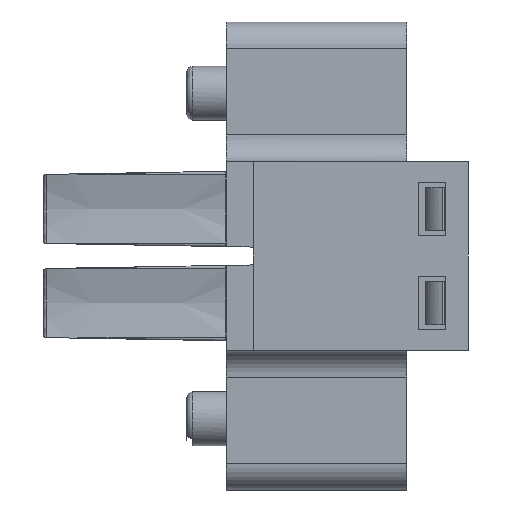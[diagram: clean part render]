
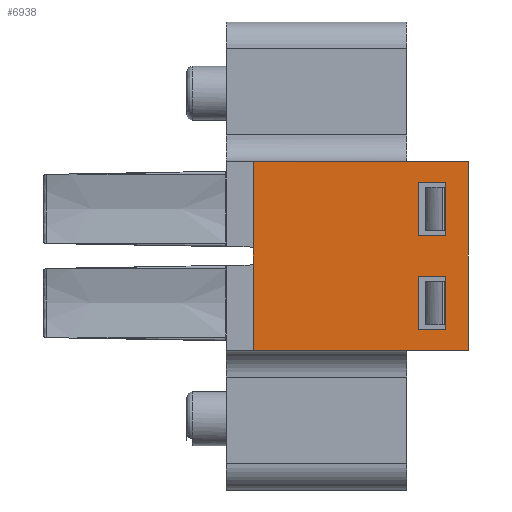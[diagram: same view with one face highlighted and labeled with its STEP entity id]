
A CAD part, left-side view. The second image highlights one B-rep face of the part: STEP entity #6938.
In plain terms, the highlighted planar face has unit normal (-1, 0, 0).
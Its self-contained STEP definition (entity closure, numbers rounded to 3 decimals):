
#6 = VERTEX_POINT ( 'NONE', #26817 ) ;
#208 = VERTEX_POINT ( 'NONE', #9997 ) ;
#300 = LINE ( 'NONE', #25983, #7680 ) ;
#777 = EDGE_CURVE ( 'NONE', #36788, #29405, #11352, .T. ) ;
#1021 = ORIENTED_EDGE ( 'NONE', *, *, #38121, .F. ) ;
#1745 = VECTOR ( 'NONE', #33619, 1000. ) ;
#2189 = VERTEX_POINT ( 'NONE', #21381 ) ;
#2351 = VECTOR ( 'NONE', #16948, 1000. ) ;
#2513 = EDGE_CURVE ( 'NONE', #6, #36788, #300, .T. ) ;
#2801 = ORIENTED_EDGE ( 'NONE', *, *, #777, .F. ) ;
#3315 = EDGE_CURVE ( 'NONE', #39332, #9974, #14833, .T. ) ;
#3419 = ORIENTED_EDGE ( 'NONE', *, *, #20596, .F. ) ;
#3481 = VERTEX_POINT ( 'NONE', #25089 ) ;
#4651 = ORIENTED_EDGE ( 'NONE', *, *, #21309, .F. ) ;
#5348 = VECTOR ( 'NONE', #34013, 1000. ) ;
#5572 = CARTESIAN_POINT ( 'NONE',  ( -22.387, -6.502, -7.844 ) ) ;
#5703 = ORIENTED_EDGE ( 'NONE', *, *, #2513, .F. ) ;
#5972 = DIRECTION ( 'NONE',  ( 1., 0., 0. ) ) ;
#6003 = VECTOR ( 'NONE', #14224, 1000. ) ;
#6313 = LINE ( 'NONE', #38914, #31614 ) ;
#6808 = FACE_BOUND ( 'NONE', #13587, .T. ) ;
#6938 = ADVANCED_FACE ( 'NONE', ( #34210, #18188, #6808 ), #13122, .F. ) ;
#7680 = VECTOR ( 'NONE', #25700, 1000. ) ;
#8277 = CARTESIAN_POINT ( 'NONE',  ( -22.387, 0.648, 1.906 ) ) ;
#8546 = CARTESIAN_POINT ( 'NONE',  ( -22.387, -2.852, -8.594 ) ) ;
#9974 = VERTEX_POINT ( 'NONE', #15600 ) ;
#9997 = CARTESIAN_POINT ( 'NONE',  ( -22.387, 0.648, -8.594 ) ) ;
#10870 = LINE ( 'NONE', #30227, #6003 ) ;
#11002 = VECTOR ( 'NONE', #21025, 1000. ) ;
#11352 = LINE ( 'NONE', #34701, #11002 ) ;
#11367 = ORIENTED_EDGE ( 'NONE', *, *, #35897, .F. ) ;
#11941 = VERTEX_POINT ( 'NONE', #5572 ) ;
#12368 = LINE ( 'NONE', #24585, #34928 ) ;
#13122 = PLANE ( 'NONE',  #22533 ) ;
#13587 = EDGE_LOOP ( 'NONE', ( #1021, #11367, #28830, #41433 ) ) ;
#13798 = CARTESIAN_POINT ( 'NONE',  ( -22.387, -5.502, 12.406 ) ) ;
#14224 = DIRECTION ( 'NONE',  ( 0., 1., 0. ) ) ;
#14833 = LINE ( 'NONE', #21768, #38625 ) ;
#15107 = EDGE_CURVE ( 'NONE', #33088, #6, #6313, .T. ) ;
#15466 = DIRECTION ( 'NONE',  ( 0., -1., 0. ) ) ;
#15600 = CARTESIAN_POINT ( 'NONE',  ( -22.387, -7.352, -1.594 ) ) ;
#15653 = DIRECTION ( 'NONE',  ( 0., 1., 0. ) ) ;
#16063 = CARTESIAN_POINT ( 'NONE',  ( -22.387, -7.352, 22.906 ) ) ;
#16756 = CARTESIAN_POINT ( 'NONE',  ( -22.387, -3.352, -7.844 ) ) ;
#16948 = DIRECTION ( 'NONE',  ( 0., 0., -1. ) ) ;
#17198 = LINE ( 'NONE', #33216, #25023 ) ;
#17242 = EDGE_CURVE ( 'NONE', #208, #39332, #37103, .T. ) ;
#18188 = FACE_BOUND ( 'NONE', #26494, .T. ) ;
#18237 = VERTEX_POINT ( 'NONE', #36729 ) ;
#18942 = DIRECTION ( 'NONE',  ( 0., -1., 0. ) ) ;
#19393 = CARTESIAN_POINT ( 'NONE',  ( -22.387, -6.502, -2.344 ) ) ;
#20596 = EDGE_CURVE ( 'NONE', #9974, #2189, #12368, .T. ) ;
#20867 = EDGE_CURVE ( 'NONE', #28808, #3481, #10870, .T. ) ;
#21025 = DIRECTION ( 'NONE',  ( 0., 1., 0. ) ) ;
#21112 = DIRECTION ( 'NONE',  ( 0., 0., 1. ) ) ;
#21309 = EDGE_CURVE ( 'NONE', #29405, #33088, #24111, .T. ) ;
#21381 = CARTESIAN_POINT ( 'NONE',  ( -22.387, -7.352, -8.594 ) ) ;
#21768 = CARTESIAN_POINT ( 'NONE',  ( -22.387, -3.352, -1.594 ) ) ;
#21914 = ORIENTED_EDGE ( 'NONE', *, *, #17242, .F. ) ;
#22533 = AXIS2_PLACEMENT_3D ( 'NONE', #16063, #5972, #15653 ) ;
#23707 = LINE ( 'NONE', #16756, #1745 ) ;
#24111 = LINE ( 'NONE', #36514, #5348 ) ;
#24287 = VECTOR ( 'NONE', #21112, 1000. ) ;
#24307 = VECTOR ( 'NONE', #15466, 1000. ) ;
#24345 = CARTESIAN_POINT ( 'NONE',  ( -22.387, -5.502, -2.344 ) ) ;
#24585 = CARTESIAN_POINT ( 'NONE',  ( -22.387, -7.352, 1.906 ) ) ;
#25023 = VECTOR ( 'NONE', #36363, 1000. ) ;
#25089 = CARTESIAN_POINT ( 'NONE',  ( -22.387, -5.502, -5.844 ) ) ;
#25700 = DIRECTION ( 'NONE',  ( 0., 0., 1. ) ) ;
#25983 = CARTESIAN_POINT ( 'NONE',  ( -22.387, -6.502, -22.594 ) ) ;
#26494 = EDGE_LOOP ( 'NONE', ( #2801, #5703, #32057, #4651 ) ) ;
#26583 = CARTESIAN_POINT ( 'NONE',  ( -22.387, -5.502, -4.344 ) ) ;
#26817 = CARTESIAN_POINT ( 'NONE',  ( -22.387, -6.502, -4.344 ) ) ;
#28546 = EDGE_CURVE ( 'NONE', #208, #2189, #37363, .T. ) ;
#28808 = VERTEX_POINT ( 'NONE', #32308 ) ;
#28829 = CARTESIAN_POINT ( 'NONE',  ( -22.387, 0.648, -1.594 ) ) ;
#28830 = ORIENTED_EDGE ( 'NONE', *, *, #20867, .F. ) ;
#29405 = VERTEX_POINT ( 'NONE', #24345 ) ;
#29856 = EDGE_CURVE ( 'NONE', #11941, #28808, #17198, .T. ) ;
#30227 = CARTESIAN_POINT ( 'NONE',  ( -22.387, -3.352, -5.844 ) ) ;
#31251 = DIRECTION ( 'NONE',  ( 0., -1., 0. ) ) ;
#31601 = ORIENTED_EDGE ( 'NONE', *, *, #3315, .F. ) ;
#31614 = VECTOR ( 'NONE', #18942, 1000. ) ;
#32057 = ORIENTED_EDGE ( 'NONE', *, *, #15107, .F. ) ;
#32308 = CARTESIAN_POINT ( 'NONE',  ( -22.387, -6.502, -5.844 ) ) ;
#33088 = VERTEX_POINT ( 'NONE', #26583 ) ;
#33216 = CARTESIAN_POINT ( 'NONE',  ( -22.387, -6.502, 12.406 ) ) ;
#33619 = DIRECTION ( 'NONE',  ( 0., -1., 0. ) ) ;
#34013 = DIRECTION ( 'NONE',  ( 0., 0., -1. ) ) ;
#34210 = FACE_OUTER_BOUND ( 'NONE', #39968, .T. ) ;
#34701 = CARTESIAN_POINT ( 'NONE',  ( -22.387, -3.352, -2.344 ) ) ;
#34928 = VECTOR ( 'NONE', #40984, 1000. ) ;
#35897 = EDGE_CURVE ( 'NONE', #3481, #18237, #38850, .T. ) ;
#36223 = ORIENTED_EDGE ( 'NONE', *, *, #28546, .T. ) ;
#36363 = DIRECTION ( 'NONE',  ( 0., 0., 1. ) ) ;
#36514 = CARTESIAN_POINT ( 'NONE',  ( -22.387, -5.502, -22.594 ) ) ;
#36729 = CARTESIAN_POINT ( 'NONE',  ( -22.387, -5.502, -7.844 ) ) ;
#36788 = VERTEX_POINT ( 'NONE', #19393 ) ;
#37103 = LINE ( 'NONE', #8277, #24287 ) ;
#37363 = LINE ( 'NONE', #8546, #24307 ) ;
#38121 = EDGE_CURVE ( 'NONE', #18237, #11941, #23707, .T. ) ;
#38625 = VECTOR ( 'NONE', #31251, 1000. ) ;
#38850 = LINE ( 'NONE', #13798, #2351 ) ;
#38914 = CARTESIAN_POINT ( 'NONE',  ( -22.387, -3.352, -4.344 ) ) ;
#39332 = VERTEX_POINT ( 'NONE', #28829 ) ;
#39968 = EDGE_LOOP ( 'NONE', ( #21914, #36223, #3419, #31601 ) ) ;
#40984 = DIRECTION ( 'NONE',  ( 0., 0., -1. ) ) ;
#41433 = ORIENTED_EDGE ( 'NONE', *, *, #29856, .F. ) ;
